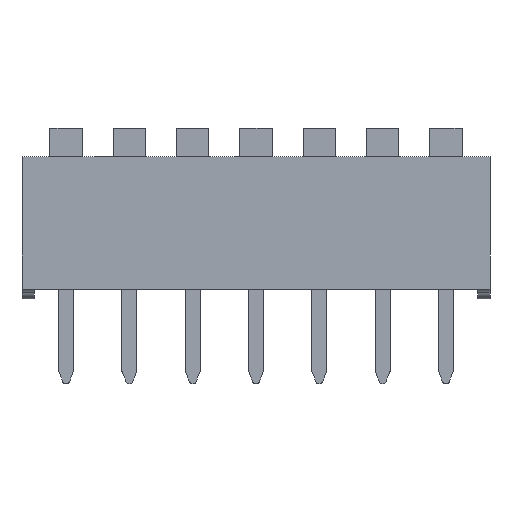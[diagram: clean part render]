
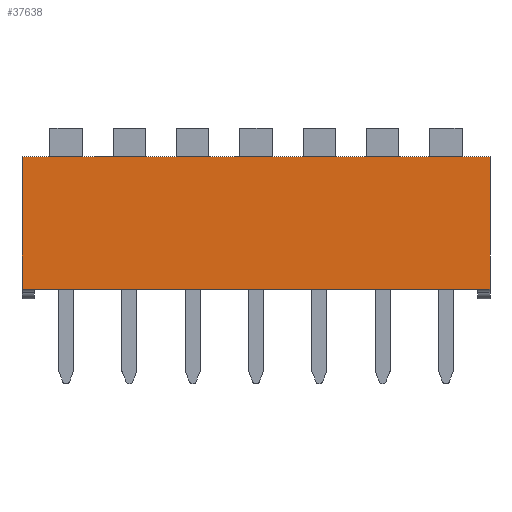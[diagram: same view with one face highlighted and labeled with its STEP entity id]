
A CAD part, front view. The second image highlights one B-rep face of the part: STEP entity #37638.
In plain terms, the highlighted planar face has unit normal (0, -1, 0).
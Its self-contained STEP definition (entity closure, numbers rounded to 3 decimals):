
#23420 = PLANE('',#23421);
#23421 = AXIS2_PLACEMENT_3D('',#23422,#23423,#23424);
#23422 = CARTESIAN_POINT('',(-1.77,8.76,0.4));
#23423 = DIRECTION('',(-1.,0.,0.));
#23424 = DIRECTION('',(0.,-1.,0.));
#23567 = VERTEX_POINT('',#23568);
#23568 = CARTESIAN_POINT('',(-1.77,-1.14,0.4));
#23582 = PLANE('',#23583);
#23583 = AXIS2_PLACEMENT_3D('',#23584,#23585,#23586);
#23584 = CARTESIAN_POINT('',(7.62,3.81,0.4));
#23585 = DIRECTION('',(0.,0.,1.));
#23586 = DIRECTION('',(1.,0.,0.));
#23594 = EDGE_CURVE('',#23567,#23595,#23597,.T.);
#23595 = VERTEX_POINT('',#23596);
#23596 = CARTESIAN_POINT('',(-1.77,-1.14,5.7));
#23597 = SURFACE_CURVE('',#23598,(#23602,#23609),.PCURVE_S1.);
#23598 = LINE('',#23599,#23600);
#23599 = CARTESIAN_POINT('',(-1.77,-1.14,0.4));
#23600 = VECTOR('',#23601,1.);
#23601 = DIRECTION('',(0.,0.,1.));
#23602 = PCURVE('',#23420,#23603);
#23603 = DEFINITIONAL_REPRESENTATION('',(#23604),#23608);
#23604 = LINE('',#23605,#23606);
#23605 = CARTESIAN_POINT('',(9.9,0.));
#23606 = VECTOR('',#23607,1.);
#23607 = DIRECTION('',(0.,1.));
#23608 = ( GEOMETRIC_REPRESENTATION_CONTEXT(2) 
PARAMETRIC_REPRESENTATION_CONTEXT() REPRESENTATION_CONTEXT('2D SPACE',''
  ) );
#23609 = PCURVE('',#23610,#23615);
#23610 = PLANE('',#23611);
#23611 = AXIS2_PLACEMENT_3D('',#23612,#23613,#23614);
#23612 = CARTESIAN_POINT('',(-1.77,-1.14,0.4));
#23613 = DIRECTION('',(0.,-1.,0.));
#23614 = DIRECTION('',(1.,0.,0.));
#23615 = DEFINITIONAL_REPRESENTATION('',(#23616),#23620);
#23616 = LINE('',#23617,#23618);
#23617 = CARTESIAN_POINT('',(0.,0.));
#23618 = VECTOR('',#23619,1.);
#23619 = DIRECTION('',(0.,1.));
#23620 = ( GEOMETRIC_REPRESENTATION_CONTEXT(2) 
PARAMETRIC_REPRESENTATION_CONTEXT() REPRESENTATION_CONTEXT('2D SPACE',''
  ) );
#23638 = PLANE('',#23639);
#23639 = AXIS2_PLACEMENT_3D('',#23640,#23641,#23642);
#23640 = CARTESIAN_POINT('',(7.62,3.81,5.7));
#23641 = DIRECTION('',(0.,0.,1.));
#23642 = DIRECTION('',(1.,0.,0.));
#24558 = EDGE_CURVE('',#23595,#24559,#24561,.T.);
#24559 = VERTEX_POINT('',#24560);
#24560 = CARTESIAN_POINT('',(17.01,-1.14,5.7));
#24561 = SURFACE_CURVE('',#24562,(#24566,#24573),.PCURVE_S1.);
#24562 = LINE('',#24563,#24564);
#24563 = CARTESIAN_POINT('',(17.01,-1.14,5.7));
#24564 = VECTOR('',#24565,1.);
#24565 = DIRECTION('',(1.,0.,0.));
#24566 = PCURVE('',#23638,#24567);
#24567 = DEFINITIONAL_REPRESENTATION('',(#24568),#24572);
#24568 = LINE('',#24569,#24570);
#24569 = CARTESIAN_POINT('',(9.39,-4.95));
#24570 = VECTOR('',#24571,1.);
#24571 = DIRECTION('',(1.,0.));
#24572 = ( GEOMETRIC_REPRESENTATION_CONTEXT(2) 
PARAMETRIC_REPRESENTATION_CONTEXT() REPRESENTATION_CONTEXT('2D SPACE',''
  ) );
#24573 = PCURVE('',#23610,#24574);
#24574 = DEFINITIONAL_REPRESENTATION('',(#24575),#24579);
#24575 = LINE('',#24576,#24577);
#24576 = CARTESIAN_POINT('',(18.78,5.3));
#24577 = VECTOR('',#24578,1.);
#24578 = DIRECTION('',(1.,0.));
#24579 = ( GEOMETRIC_REPRESENTATION_CONTEXT(2) 
PARAMETRIC_REPRESENTATION_CONTEXT() REPRESENTATION_CONTEXT('2D SPACE',''
  ) );
#24597 = PLANE('',#24598);
#24598 = AXIS2_PLACEMENT_3D('',#24599,#24600,#24601);
#24599 = CARTESIAN_POINT('',(17.01,-1.14,0.4));
#24600 = DIRECTION('',(1.,0.,0.));
#24601 = DIRECTION('',(0.,1.,0.));
#34344 = VERTEX_POINT('',#34345);
#34345 = CARTESIAN_POINT('',(17.01,-1.14,0.4));
#34366 = EDGE_CURVE('',#34344,#23567,#34367,.T.);
#34367 = SURFACE_CURVE('',#34368,(#34372,#34379),.PCURVE_S1.);
#34368 = LINE('',#34369,#34370);
#34369 = CARTESIAN_POINT('',(17.01,-1.14,0.4));
#34370 = VECTOR('',#34371,1.);
#34371 = DIRECTION('',(-1.,0.,0.));
#34372 = PCURVE('',#23582,#34373);
#34373 = DEFINITIONAL_REPRESENTATION('',(#34374),#34378);
#34374 = LINE('',#34375,#34376);
#34375 = CARTESIAN_POINT('',(9.39,-4.95));
#34376 = VECTOR('',#34377,1.);
#34377 = DIRECTION('',(-1.,0.));
#34378 = ( GEOMETRIC_REPRESENTATION_CONTEXT(2) 
PARAMETRIC_REPRESENTATION_CONTEXT() REPRESENTATION_CONTEXT('2D SPACE',''
  ) );
#34379 = PCURVE('',#23610,#34380);
#34380 = DEFINITIONAL_REPRESENTATION('',(#34381),#34385);
#34381 = LINE('',#34382,#34383);
#34382 = CARTESIAN_POINT('',(18.78,0.));
#34383 = VECTOR('',#34384,1.);
#34384 = DIRECTION('',(-1.,0.));
#34385 = ( GEOMETRIC_REPRESENTATION_CONTEXT(2) 
PARAMETRIC_REPRESENTATION_CONTEXT() REPRESENTATION_CONTEXT('2D SPACE',''
  ) );
#37604 = EDGE_CURVE('',#34344,#24559,#37605,.T.);
#37605 = SURFACE_CURVE('',#37606,(#37610,#37617),.PCURVE_S1.);
#37606 = LINE('',#37607,#37608);
#37607 = CARTESIAN_POINT('',(17.01,-1.14,0.4));
#37608 = VECTOR('',#37609,1.);
#37609 = DIRECTION('',(0.,0.,1.));
#37610 = PCURVE('',#24597,#37611);
#37611 = DEFINITIONAL_REPRESENTATION('',(#37612),#37616);
#37612 = LINE('',#37613,#37614);
#37613 = CARTESIAN_POINT('',(0.,0.));
#37614 = VECTOR('',#37615,1.);
#37615 = DIRECTION('',(0.,1.));
#37616 = ( GEOMETRIC_REPRESENTATION_CONTEXT(2) 
PARAMETRIC_REPRESENTATION_CONTEXT() REPRESENTATION_CONTEXT('2D SPACE',''
  ) );
#37617 = PCURVE('',#23610,#37618);
#37618 = DEFINITIONAL_REPRESENTATION('',(#37619),#37623);
#37619 = LINE('',#37620,#37621);
#37620 = CARTESIAN_POINT('',(18.78,0.));
#37621 = VECTOR('',#37622,1.);
#37622 = DIRECTION('',(0.,1.));
#37623 = ( GEOMETRIC_REPRESENTATION_CONTEXT(2) 
PARAMETRIC_REPRESENTATION_CONTEXT() REPRESENTATION_CONTEXT('2D SPACE',''
  ) );
#37638 = ADVANCED_FACE('',(#37639),#23610,.T.);
#37639 = FACE_BOUND('',#37640,.T.);
#37640 = EDGE_LOOP('',(#37641,#37642,#37643,#37644));
#37641 = ORIENTED_EDGE('',*,*,#34366,.F.);
#37642 = ORIENTED_EDGE('',*,*,#37604,.T.);
#37643 = ORIENTED_EDGE('',*,*,#24558,.F.);
#37644 = ORIENTED_EDGE('',*,*,#23594,.F.);
